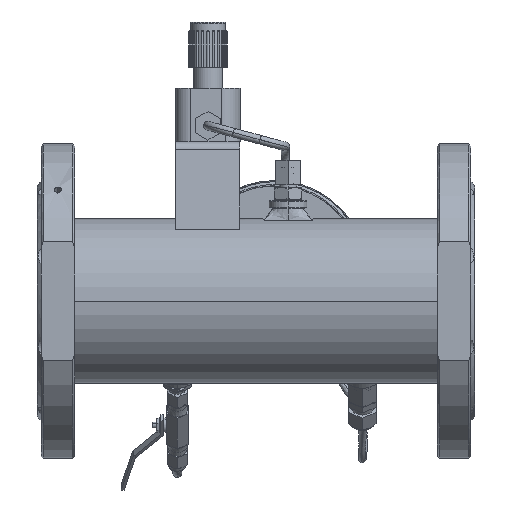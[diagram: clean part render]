
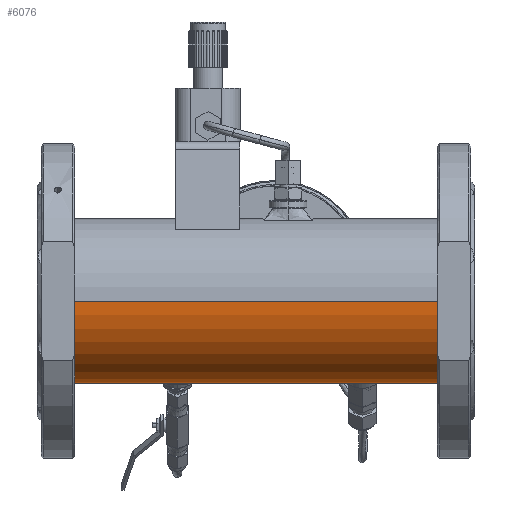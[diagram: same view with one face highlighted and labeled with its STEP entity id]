
A CAD part, front view. The second image highlights one B-rep face of the part: STEP entity #6076.
In plain terms, the highlighted cylindrical face has radius 56.5 mm (diameter 113 mm), a partial arc.
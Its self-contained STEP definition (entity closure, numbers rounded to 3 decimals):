
#4951=CARTESIAN_POINT('',(74.547,56.5,0.));
#4959=CARTESIAN_POINT('',(137.,56.5,0.));
#4974=CARTESIAN_POINT('',(175.,56.5,0.));
#5080=CARTESIAN_POINT('',(0.,0.,0.));
#5081=DIRECTION('',(-1.,0.,0.));
#5082=DIRECTION('',(0.,1.,0.));
#5083=AXIS2_PLACEMENT_3D('',#5080,#5081,#5082);
#5112=CARTESIAN_POINT('',(199.5,31.761,-46.728));
#5113=CARTESIAN_POINT('',(198.155,37.701,-42.69));
#5114=CARTESIAN_POINT('',(198.155,42.69,-37.701));
#5115=CARTESIAN_POINT('',(199.5,46.728,-31.761));
#5120=DIRECTION('',(1.,0.,0.));
#5121=VECTOR('',#5120,33.);
#5122=CARTESIAN_POINT('',(199.5,46.728,-31.761));
#5123=LINE('',#5122,#5121);
#5127=CARTESIAN_POINT('',(232.5,46.728,-31.761));
#5128=CARTESIAN_POINT('',(233.845,42.69,-37.701));
#5129=CARTESIAN_POINT('',(233.845,37.701,-42.69));
#5130=CARTESIAN_POINT('',(232.5,31.761,-46.728));
#5135=DIRECTION('',(1.,0.,0.));
#5136=VECTOR('',#5135,33.);
#5137=CARTESIAN_POINT('',(199.5,31.761,-46.728));
#5138=LINE('',#5137,#5136);
#5142=CARTESIAN_POINT('',(72.5,31.761,-46.728));
#5143=CARTESIAN_POINT('',(71.155,37.701,-42.69));
#5144=CARTESIAN_POINT('',(71.155,42.69,-37.701));
#5145=CARTESIAN_POINT('',(72.5,46.728,-31.761));
#5150=DIRECTION('',(1.,0.,0.));
#5151=VECTOR('',#5150,33.);
#5152=CARTESIAN_POINT('',(72.5,46.728,-31.761));
#5153=LINE('',#5152,#5151);
#5157=CARTESIAN_POINT('',(105.5,46.728,-31.761));
#5158=CARTESIAN_POINT('',(106.845,42.69,-37.701));
#5159=CARTESIAN_POINT('',(106.845,37.701,-42.69));
#5160=CARTESIAN_POINT('',(105.5,31.761,-46.728));
#5165=DIRECTION('',(1.,0.,0.));
#5166=VECTOR('',#5165,33.);
#5167=CARTESIAN_POINT('',(72.5,31.761,-46.728));
#5168=LINE('',#5167,#5166);
#5172=CARTESIAN_POINT('',(57.226,55.608,-10.));
#5173=CARTESIAN_POINT('',(62.988,56.206,-6.673));
#5174=CARTESIAN_POINT('',(68.762,56.5,-3.34));
#5175=CARTESIAN_POINT('',(74.547,56.5,0.));
#5180=CARTESIAN_POINT('',(57.226,0.,0.));
#5181=DIRECTION('',(1.,0.,0.));
#5182=DIRECTION('',(0.,0.984,-0.177));
#5183=AXIS2_PLACEMENT_3D('',#5180,#5181,#5182);
#5188=DIRECTION('',(1.,0.,0.));
#5189=VECTOR('',#5188,20.);
#5190=CARTESIAN_POINT('',(37.226,56.42,-3.));
#5191=LINE('',#5190,#5189);
#5195=CARTESIAN_POINT('',(37.226,0.,0.));
#5196=DIRECTION('',(1.,0.,0.));
#5197=DIRECTION('',(0.,0.999,-0.053));
#5198=AXIS2_PLACEMENT_3D('',#5195,#5196,#5197);
#5203=DIRECTION('',(-1.,0.,0.));
#5204=VECTOR('',#5203,37.226);
#5205=CARTESIAN_POINT('',(37.226,56.5,0.));
#5206=LINE('',#5205,#5204);
#5210=DIRECTION('',(-1.,0.,0.));
#5211=VECTOR('',#5210,287.);
#5212=CARTESIAN_POINT('',(287.,-56.5,0.));
#5213=LINE('',#5212,#5211);
#5217=CARTESIAN_POINT('',(287.,0.,0.));
#5218=DIRECTION('',(-1.,0.,0.));
#5219=DIRECTION('',(0.,1.,0.));
#5220=AXIS2_PLACEMENT_3D('',#5217,#5218,#5219);
#5225=DIRECTION('',(-1.,0.,0.));
#5226=VECTOR('',#5225,112.);
#5227=CARTESIAN_POINT('',(287.,56.5,0.));
#5228=LINE('',#5227,#5226);
#5232=CARTESIAN_POINT('',(174.,55.5,-10.583));
#5233=CARTESIAN_POINT('',(174.661,56.161,-7.117));
#5234=CARTESIAN_POINT('',(175.,56.5,-3.59));
#5235=CARTESIAN_POINT('',(175.,56.5,0.));
#5240=DIRECTION('',(1.,0.,0.));
#5241=VECTOR('',#5240,36.);
#5242=CARTESIAN_POINT('',(138.,55.5,-10.583));
#5243=LINE('',#5242,#5241);
#5247=CARTESIAN_POINT('',(138.,55.5,-10.583));
#5248=CARTESIAN_POINT('',(137.339,56.161,-7.117));
#5249=CARTESIAN_POINT('',(137.,56.5,-3.59));
#5250=CARTESIAN_POINT('',(137.,56.5,0.));
#5255=DIRECTION('',(-1.,0.,0.));
#5256=VECTOR('',#5255,62.453);
#5257=CARTESIAN_POINT('',(137.,56.5,0.));
#5258=LINE('',#5257,#5256);
#5697=CARTESIAN_POINT('',(287.,-56.5,0.));
#5698=CARTESIAN_POINT('',(0.,-56.5,0.));
#5699=VERTEX_POINT('',#5697);
#5700=VERTEX_POINT('',#5698);
#5701=CARTESIAN_POINT('',(287.,56.5,0.));
#5702=VERTEX_POINT('',#5701);
#5703=CARTESIAN_POINT('',(0.,56.5,0.));
#5704=VERTEX_POINT('',#5703);
#5705=VERTEX_POINT('',#4959);
#5709=VERTEX_POINT('',#4974);
#5710=VERTEX_POINT('',#5247);
#5711=CARTESIAN_POINT('',(174.,55.5,-10.583));
#5712=VERTEX_POINT('',#5711);
#5717=VERTEX_POINT('',#5112);
#5718=VERTEX_POINT('',#5115);
#5719=VERTEX_POINT('',#5127);
#5720=VERTEX_POINT('',#5130);
#5721=VERTEX_POINT('',#5142);
#5722=VERTEX_POINT('',#5145);
#5723=VERTEX_POINT('',#5157);
#5724=VERTEX_POINT('',#5160);
#5783=CARTESIAN_POINT('',(37.226,56.5,0.));
#5785=VERTEX_POINT('',#5783);
#5791=VERTEX_POINT('',#4951);
#5792=VERTEX_POINT('',#5172);
#5793=CARTESIAN_POINT('',(57.226,56.42,-3.));
#5794=VERTEX_POINT('',#5793);
#5795=CARTESIAN_POINT('',(37.226,56.42,-3.));
#5796=VERTEX_POINT('',#5795);
#6029=CARTESIAN_POINT('',(-14.35,0.,0.));
#6030=DIRECTION('',(1.,0.,0.));
#6031=DIRECTION('',(0.,-1.,0.));
#6032=AXIS2_PLACEMENT_3D('',#6029,#6030,#6031);
#6033=CYLINDRICAL_SURFACE('',#6032,56.5);
#6035=ORIENTED_EDGE('',*,*,#6034,.F.);
#6037=ORIENTED_EDGE('',*,*,#6036,.T.);
#6039=ORIENTED_EDGE('',*,*,#6038,.F.);
#6041=ORIENTED_EDGE('',*,*,#6040,.T.);
#6042=ORIENTED_EDGE('',*,*,#5850,.T.);
#6043=ORIENTED_EDGE('',*,*,#6011,.T.);
#6044=ORIENTED_EDGE('',*,*,#5846,.F.);
#6045=ORIENTED_EDGE('',*,*,#5804,.F.);
#6046=ORIENTED_EDGE('',*,*,#5843,.T.);
#6048=ORIENTED_EDGE('',*,*,#6047,.F.);
#6050=ORIENTED_EDGE('',*,*,#6049,.F.);
#6052=ORIENTED_EDGE('',*,*,#6051,.T.);
#6053=ORIENTED_EDGE('',*,*,#5835,.T.);
#6054=EDGE_LOOP('',(#6035,#6037,#6039,#6041,#6042,#6043,#6044,#6045,#6046,#6048,
#6050,#6052,#6053));
#6055=FACE_OUTER_BOUND('',#6054,.F.);
#6057=ORIENTED_EDGE('',*,*,#6056,.T.);
#6059=ORIENTED_EDGE('',*,*,#6058,.T.);
#6061=ORIENTED_EDGE('',*,*,#6060,.T.);
#6063=ORIENTED_EDGE('',*,*,#6062,.F.);
#6064=EDGE_LOOP('',(#6057,#6059,#6061,#6063));
#6065=FACE_BOUND('',#6064,.F.);
#6067=ORIENTED_EDGE('',*,*,#6066,.T.);
#6069=ORIENTED_EDGE('',*,*,#6068,.T.);
#6071=ORIENTED_EDGE('',*,*,#6070,.T.);
#6073=ORIENTED_EDGE('',*,*,#6072,.F.);
#6074=EDGE_LOOP('',(#6067,#6069,#6071,#6073));
#6075=FACE_BOUND('',#6074,.F.);
#5084=CIRCLE('',#5083,56.5);
#5116=B_SPLINE_CURVE_WITH_KNOTS('',3,(#5112,#5113,#5114,#5115),.UNSPECIFIED.,
.F.,.F.,(4,4),(0.,1.),.UNSPECIFIED.);
#5131=B_SPLINE_CURVE_WITH_KNOTS('',3,(#5127,#5128,#5129,#5130),.UNSPECIFIED.,
.F.,.F.,(4,4),(0.,1.),.UNSPECIFIED.);
#5146=B_SPLINE_CURVE_WITH_KNOTS('',3,(#5142,#5143,#5144,#5145),.UNSPECIFIED.,
.F.,.F.,(4,4),(0.,1.),.UNSPECIFIED.);
#5161=B_SPLINE_CURVE_WITH_KNOTS('',3,(#5157,#5158,#5159,#5160),.UNSPECIFIED.,
.F.,.F.,(4,4),(0.,1.),.UNSPECIFIED.);
#5176=B_SPLINE_CURVE_WITH_KNOTS('',3,(#5172,#5173,#5174,#5175),.UNSPECIFIED.,
.F.,.F.,(4,4),(0.,1.),.UNSPECIFIED.);
#5184=CIRCLE('',#5183,56.5);
#5199=CIRCLE('',#5198,56.5);
#5221=CIRCLE('',#5220,56.5);
#5236=B_SPLINE_CURVE_WITH_KNOTS('',3,(#5232,#5233,#5234,#5235),.UNSPECIFIED.,
.F.,.F.,(4,4),(0.,1.),.UNSPECIFIED.);
#5251=B_SPLINE_CURVE_WITH_KNOTS('',3,(#5247,#5248,#5249,#5250),.UNSPECIFIED.,
.F.,.F.,(4,4),(0.,1.),.UNSPECIFIED.);
#5804=EDGE_CURVE('',#5702,#5699,#5221,.T.);
#5835=EDGE_CURVE('',#5705,#5791,#5258,.T.);
#5843=EDGE_CURVE('',#5702,#5709,#5228,.T.);
#5846=EDGE_CURVE('',#5699,#5700,#5213,.T.);
#5850=EDGE_CURVE('',#5785,#5704,#5206,.T.);
#6011=EDGE_CURVE('',#5704,#5700,#5084,.T.);
#6034=EDGE_CURVE('',#5792,#5791,#5176,.T.);
#6036=EDGE_CURVE('',#5792,#5794,#5184,.T.);
#6038=EDGE_CURVE('',#5796,#5794,#5191,.T.);
#6040=EDGE_CURVE('',#5796,#5785,#5199,.T.);
#6047=EDGE_CURVE('',#5712,#5709,#5236,.T.);
#6049=EDGE_CURVE('',#5710,#5712,#5243,.T.);
#6051=EDGE_CURVE('',#5710,#5705,#5251,.T.);
#6056=EDGE_CURVE('',#5721,#5722,#5146,.T.);
#6058=EDGE_CURVE('',#5722,#5723,#5153,.T.);
#6060=EDGE_CURVE('',#5723,#5724,#5161,.T.);
#6062=EDGE_CURVE('',#5721,#5724,#5168,.T.);
#6066=EDGE_CURVE('',#5717,#5718,#5116,.T.);
#6068=EDGE_CURVE('',#5718,#5719,#5123,.T.);
#6070=EDGE_CURVE('',#5719,#5720,#5131,.T.);
#6072=EDGE_CURVE('',#5717,#5720,#5138,.T.);
#6076=ADVANCED_FACE('',(#6055,#6065,#6075),#6033,.T.);
